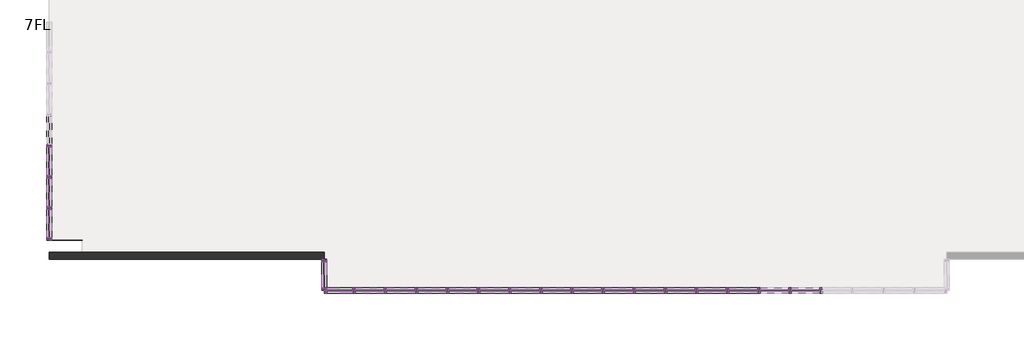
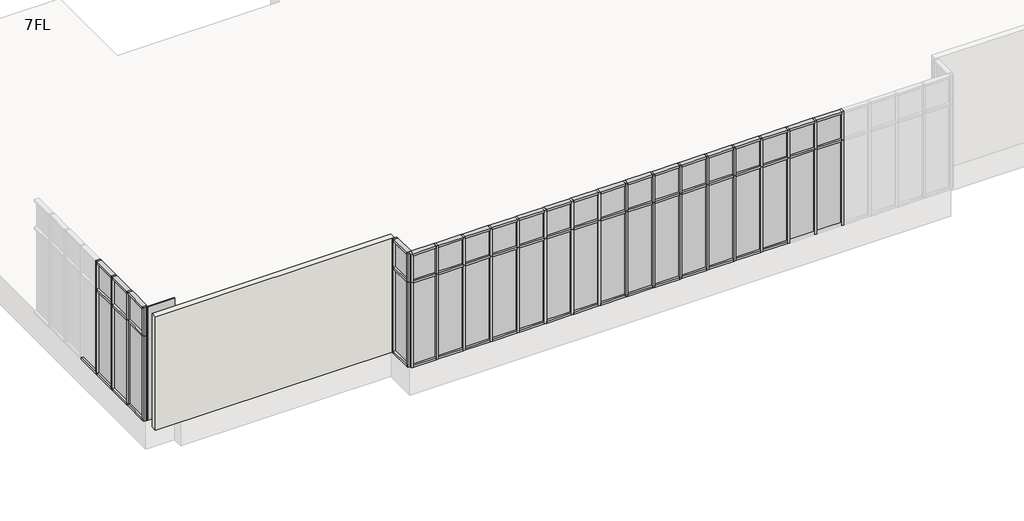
# One storey, part 1 of 4: 105 members, 42 plates, 1 wall.
"""IFC4 building model written with IfcOpenShell, lengths in millimetres."""

from ifc_helpers import new_model, si_unit, origin, place, context, project, spatial, faceted_brep, transform, mapped, element, save
from components import member_70x150_cdd4dcf9, member_70x150_9a135ce4, member_70x150_66cf63de, member_70x150_26475b18, member_70x150_ad4265bc, member_70x150_e0eddb57, member_70x150_1b280ac3, member_70x150_76429c73, plate_d1366ea1, plate_ab860a3c, plate_28587fd3, plate_4b01b467, plate_396bcf3c, plate_83f08a3e

model = new_model("IFC4")

# Units and contexts
model_context = context("Model", 3, world=origin())
ifc_project = project(units=[si_unit("LENGTHUNIT", "METRE", prefix="MILLI")], contexts=[model_context])

# Site, building, storey
site = spatial("IfcSite", under=ifc_project)
building = spatial("IfcBuilding", under=site)
storey = spatial("IfcBuildingStorey", under=building, Name="7FL", Elevation=24600.0)

# Members
placement = place(None, origin())
member_70x150_shape = member_70x150_cdd4dcf9(model_context)
element("IfcMember", 1, ObjectType="長方形のマリオン : 70x150", at=placement, inside=storey, context=model_context, shape_type="MappedRepresentation", body=[
    mapped(member_70x150_shape, transform((-19630.9784025, -4550.3131013, 24600.0), x_axis=(-1.0, 0.0, 0.0), y_axis=(0.0, 1.0, 0.0), z_axis=(0.0, 0.0, -1.0))),
])
element("IfcMember", 2, ObjectType="長方形のマリオン : 70x150", at=placement, inside=storey, context=model_context, shape_type="MappedRepresentation", body=[
    mapped(member_70x150_shape, transform((-16030.9784025, -4550.3131013, 24600.0), x_axis=(-1.0, 0.0, 0.0), y_axis=(0.0, 1.0, 0.0), z_axis=(0.0, 0.0, -1.0))),
])
element("IfcMember", 3, ObjectType="長方形のマリオン : 70x150", at=placement, inside=storey, context=model_context, shape_type="MappedRepresentation", body=[
    mapped(member_70x150_shape, transform((-20530.9784025, -4550.3131013, 24600.0), x_axis=(-1.0, 0.0, 0.0), y_axis=(0.0, 1.0, 0.0), z_axis=(0.0, 0.0, -1.0))),
])
element("IfcMember", 4, ObjectType="長方形のマリオン : 70x150", at=placement, inside=storey, context=model_context, shape_type="MappedRepresentation", body=[
    mapped(member_70x150_shape, transform((-17830.9784025, -4550.3131013, 24600.0), x_axis=(-1.0, 0.0, 0.0), y_axis=(0.0, 1.0, 0.0), z_axis=(0.0, 0.0, -1.0))),
])
element("IfcMember", 5, ObjectType="長方形のマリオン : 70x150", at=placement, inside=storey, context=model_context, shape_type="MappedRepresentation", body=[
    mapped(member_70x150_shape, transform((-14230.9784025, -4550.3131013, 24600.0), x_axis=(-1.0, 0.0, 0.0), y_axis=(0.0, 1.0, 0.0), z_axis=(0.0, 0.0, -1.0))),
])
element("IfcMember", 6, ObjectType="長方形のマリオン : 70x150", at=placement, inside=storey, context=model_context, shape_type="MappedRepresentation", body=[
    mapped(member_70x150_shape, transform((-18730.9784025, -4550.3131013, 24600.0), x_axis=(-1.0, 0.0, 0.0), y_axis=(0.0, 1.0, 0.0), z_axis=(0.0, 0.0, -1.0))),
])
element("IfcMember", 7, ObjectType="長方形のマリオン : 70x150", at=placement, inside=storey, context=model_context, shape_type="MappedRepresentation", body=[
    mapped(member_70x150_shape, transform((-15130.9784025, -4550.3131013, 24600.0), x_axis=(-1.0, 0.0, 0.0), y_axis=(0.0, 1.0, 0.0), z_axis=(0.0, 0.0, -1.0))),
])
element("IfcMember", 8, ObjectType="長方形のマリオン : 70x150", at=placement, inside=storey, context=model_context, shape_type="MappedRepresentation", body=[
    mapped(member_70x150_shape, transform((-13330.9784025, -4550.3131013, 24600.0), x_axis=(-1.0, 0.0, 0.0), y_axis=(0.0, 1.0, 0.0), z_axis=(0.0, 0.0, -1.0))),
])
element("IfcMember", 9, ObjectType="長方形のマリオン : 70x150", at=placement, inside=storey, context=model_context, shape_type="MappedRepresentation", body=[
    mapped(member_70x150_shape, transform((-16930.9784025, -4550.3131013, 24600.0), x_axis=(-1.0, 0.0, 0.0), y_axis=(0.0, 1.0, 0.0), z_axis=(0.0, 0.0, -1.0))),
])
element("IfcMember", 10, ObjectType="長方形のマリオン : 70x150", at=placement, inside=storey, context=model_context, shape_type="MappedRepresentation", body=[
    mapped(member_70x150_shape, transform((-12430.9784025, -4550.3131013, 24600.0), x_axis=(-1.0, 0.0, 0.0), y_axis=(0.0, 1.0, 0.0), z_axis=(0.0, 0.0, -1.0))),
])
element("IfcMember", 11, ObjectType="長方形のマリオン : 70x150", at=placement, inside=storey, context=model_context, shape_type="MappedRepresentation", body=[
    mapped(member_70x150_shape, transform((-10630.9784025, -4550.3131013, 24600.0), x_axis=(-1.0, 0.0, 0.0), y_axis=(0.0, 1.0, 0.0), z_axis=(0.0, 0.0, -1.0))),
])
element("IfcMember", 12, ObjectType="長方形のマリオン : 70x150", at=placement, inside=storey, context=model_context, shape_type="MappedRepresentation", body=[
    mapped(member_70x150_shape, transform((-7930.9784025, -4550.3131013, 24600.0), x_axis=(-1.0, 0.0, 0.0), y_axis=(0.0, 1.0, 0.0), z_axis=(0.0, 0.0, -1.0))),
])
element("IfcMember", 13, ObjectType="長方形のマリオン : 70x150", at=placement, inside=storey, context=model_context, shape_type="MappedRepresentation", body=[
    mapped(member_70x150_shape, transform((-9730.9784025, -4550.3131013, 24600.0), x_axis=(-1.0, 0.0, 0.0), y_axis=(0.0, 1.0, 0.0), z_axis=(0.0, 0.0, -1.0))),
])
element("IfcMember", 14, ObjectType="長方形のマリオン : 70x150", at=placement, inside=storey, context=model_context, shape_type="MappedRepresentation", body=[
    mapped(member_70x150_shape, transform((-11530.9784025, -4550.3131013, 24600.0), x_axis=(-1.0, 0.0, 0.0), y_axis=(0.0, 1.0, 0.0), z_axis=(0.0, 0.0, -1.0))),
])
element("IfcMember", 15, ObjectType="長方形のマリオン : 70x150", at=placement, inside=storey, context=model_context, shape_type="MappedRepresentation", body=[
    mapped(member_70x150_shape, transform((-8830.9784025, -4550.3131013, 24600.0), x_axis=(-1.0, 0.0, 0.0), y_axis=(0.0, 1.0, 0.0), z_axis=(0.0, 0.0, -1.0))),
])
element("IfcMember", 16, ObjectType="長方形のマリオン : 70x150", at=placement, inside=storey, context=model_context, shape_type="MappedRepresentation", body=[
    mapped(member_70x150_shape, transform((-7030.9784025, -4550.3131013, 24600.0), x_axis=(-1.0, 0.0, 0.0), y_axis=(0.0, 1.0, 0.0), z_axis=(0.0, 0.0, -1.0))),
])
element("IfcMember", 17, ObjectType="長方形のマリオン : 70x150", at=placement, inside=storey, context=model_context, shape_type="MappedRepresentation", body=[
    mapped(member_70x150_shape, transform((-29345.9784025, -365.3131013, 24600.0), x_axis=(0.0, 1.0, 0.0), y_axis=(1.0, 0.0, 0.0), z_axis=(0.0, 0.0, -1.0))),
])
element("IfcMember", 18, ObjectType="長方形のマリオン : 70x150", at=placement, inside=storey, context=model_context, shape_type="MappedRepresentation", body=[
    mapped(member_70x150_shape, transform((-29345.9784025, -2165.3131013, 24600.0), x_axis=(0.0, 1.0, 0.0), y_axis=(1.0, 0.0, 0.0), z_axis=(0.0, 0.0, -1.0))),
])
element("IfcMember", 19, ObjectType="長方形のマリオン : 70x150", at=placement, inside=storey, context=model_context, shape_type="MappedRepresentation", body=[
    mapped(member_70x150_shape, transform((-29345.9784025, -1265.3131013, 24600.0), x_axis=(0.0, 1.0, 0.0), y_axis=(1.0, 0.0, 0.0), z_axis=(0.0, 0.0, -1.0))),
])
member_70x150_2_shape = member_70x150_9a135ce4(model_context)
element("IfcMember", 20, ObjectType="長方形のマリオン : 70x150", at=placement, inside=storey, context=model_context, shape_type="MappedRepresentation", body=[
    mapped(member_70x150_2_shape, transform((-21325.9784025, -4550.3131013, 28600.0), x_axis=(0.0, 0.0, 1.0), y_axis=(0.0, 1.0, 0.0), z_axis=(-1.0, 0.0, 0.0))),
])
element("IfcMember", 21, ObjectType="長方形のマリオン : 70x150", at=placement, inside=storey, context=model_context, shape_type="MappedRepresentation", body=[
    mapped(member_70x150_2_shape, transform((-21395.9784025, -3720.3131013, 28600.0), x_axis=(0.0, 0.0, 1.0), y_axis=(1.0, 0.0, 0.0), z_axis=(0.0, 1.0, 0.0))),
])
member_70x150_3_shape = member_70x150_66cf63de(model_context)
element("IfcMember", 22, ObjectType="長方形のマリオン : 70x150", at=placement, inside=storey, context=model_context, shape_type="MappedRepresentation", body=[
    mapped(member_70x150_3_shape, transform((-19665.9784025, -4550.3131013, 24600.0), x_axis=(0.0, 0.0, -1.0), y_axis=(0.0, 1.0, 0.0), z_axis=(1.0, 0.0, 0.0))),
])
element("IfcMember", 23, ObjectType="長方形のマリオン : 70x150", at=placement, inside=storey, context=model_context, shape_type="MappedRepresentation", body=[
    mapped(member_70x150_3_shape, transform((-18765.9784025, -4550.3131013, 24600.0), x_axis=(0.0, 0.0, -1.0), y_axis=(0.0, 1.0, 0.0), z_axis=(1.0, 0.0, 0.0))),
])
element("IfcMember", 24, ObjectType="長方形のマリオン : 70x150", at=placement, inside=storey, context=model_context, shape_type="MappedRepresentation", body=[
    mapped(member_70x150_3_shape, transform((-17865.9784025, -4550.3131013, 24600.0), x_axis=(0.0, 0.0, -1.0), y_axis=(0.0, 1.0, 0.0), z_axis=(1.0, 0.0, 0.0))),
])
element("IfcMember", 25, ObjectType="長方形のマリオン : 70x150", at=placement, inside=storey, context=model_context, shape_type="MappedRepresentation", body=[
    mapped(member_70x150_3_shape, transform((-16965.9784025, -4550.3131013, 24600.0), x_axis=(0.0, 0.0, -1.0), y_axis=(0.0, 1.0, 0.0), z_axis=(1.0, 0.0, 0.0))),
])
element("IfcMember", 26, ObjectType="長方形のマリオン : 70x150", at=placement, inside=storey, context=model_context, shape_type="MappedRepresentation", body=[
    mapped(member_70x150_3_shape, transform((-16065.9784025, -4550.3131013, 24600.0), x_axis=(0.0, 0.0, -1.0), y_axis=(0.0, 1.0, 0.0), z_axis=(1.0, 0.0, 0.0))),
])
element("IfcMember", 27, ObjectType="長方形のマリオン : 70x150", at=placement, inside=storey, context=model_context, shape_type="MappedRepresentation", body=[
    mapped(member_70x150_3_shape, transform((-11565.9784025, -4550.3131013, 24600.0), x_axis=(0.0, 0.0, -1.0), y_axis=(0.0, 1.0, 0.0), z_axis=(1.0, 0.0, 0.0))),
])
element("IfcMember", 28, ObjectType="長方形のマリオン : 70x150", at=placement, inside=storey, context=model_context, shape_type="MappedRepresentation", body=[
    mapped(member_70x150_3_shape, transform((-9765.9784025, -4550.3131013, 24600.0), x_axis=(0.0, 0.0, -1.0), y_axis=(0.0, 1.0, 0.0), z_axis=(1.0, 0.0, 0.0))),
])
element("IfcMember", 29, ObjectType="長方形のマリオン : 70x150", at=placement, inside=storey, context=model_context, shape_type="MappedRepresentation", body=[
    mapped(member_70x150_3_shape, transform((-13365.9784025, -4550.3131013, 24600.0), x_axis=(0.0, 0.0, -1.0), y_axis=(0.0, 1.0, 0.0), z_axis=(1.0, 0.0, 0.0))),
])
element("IfcMember", 30, ObjectType="長方形のマリオン : 70x150", at=placement, inside=storey, context=model_context, shape_type="MappedRepresentation", body=[
    mapped(member_70x150_3_shape, transform((-12465.9784025, -4550.3131013, 24600.0), x_axis=(0.0, 0.0, -1.0), y_axis=(0.0, 1.0, 0.0), z_axis=(1.0, 0.0, 0.0))),
])
element("IfcMember", 31, ObjectType="長方形のマリオン : 70x150", at=placement, inside=storey, context=model_context, shape_type="MappedRepresentation", body=[
    mapped(member_70x150_3_shape, transform((-14265.9784025, -4550.3131013, 24600.0), x_axis=(0.0, 0.0, -1.0), y_axis=(0.0, 1.0, 0.0), z_axis=(1.0, 0.0, 0.0))),
])
element("IfcMember", 32, ObjectType="長方形のマリオン : 70x150", at=placement, inside=storey, context=model_context, shape_type="MappedRepresentation", body=[
    mapped(member_70x150_3_shape, transform((-10665.9784025, -4550.3131013, 24600.0), x_axis=(0.0, 0.0, -1.0), y_axis=(0.0, 1.0, 0.0), z_axis=(1.0, 0.0, 0.0))),
])
element("IfcMember", 33, ObjectType="長方形のマリオン : 70x150", at=placement, inside=storey, context=model_context, shape_type="MappedRepresentation", body=[
    mapped(member_70x150_3_shape, transform((-15165.9784025, -4550.3131013, 24600.0), x_axis=(0.0, 0.0, -1.0), y_axis=(0.0, 1.0, 0.0), z_axis=(1.0, 0.0, 0.0))),
])
element("IfcMember", 34, ObjectType="長方形のマリオン : 70x150", at=placement, inside=storey, context=model_context, shape_type="MappedRepresentation", body=[
    mapped(member_70x150_3_shape, transform((-8865.9784025, -4550.3131013, 24600.0), x_axis=(0.0, 0.0, -1.0), y_axis=(0.0, 1.0, 0.0), z_axis=(1.0, 0.0, 0.0))),
])
element("IfcMember", 35, ObjectType="長方形のマリオン : 70x150", at=placement, inside=storey, context=model_context, shape_type="MappedRepresentation", body=[
    mapped(member_70x150_3_shape, transform((-29345.9784025, -330.3131013, 24600.0), x_axis=(0.0, 0.0, -1.0), y_axis=(1.0, 0.0, 0.0), z_axis=(0.0, -1.0, 0.0))),
])
element("IfcMember", 36, ObjectType="長方形のマリオン : 70x150", at=placement, inside=storey, context=model_context, shape_type="MappedRepresentation", body=[
    mapped(member_70x150_3_shape, transform((-29345.9784025, -1230.3131013, 24600.0), x_axis=(0.0, 0.0, -1.0), y_axis=(1.0, 0.0, 0.0), z_axis=(0.0, -1.0, 0.0))),
])
element("IfcMember", 37, ObjectType="長方形のマリオン : 70x150", at=placement, inside=storey, context=model_context, shape_type="MappedRepresentation", body=[
    mapped(member_70x150_3_shape, transform((-29345.9784025, -2130.3131013, 24600.0), x_axis=(0.0, 0.0, -1.0), y_axis=(1.0, 0.0, 0.0), z_axis=(0.0, -1.0, 0.0))),
])
element("IfcMember", 38, ObjectType="長方形のマリオン : 70x150", at=placement, inside=storey, context=model_context, shape_type="MappedRepresentation", body=[
    mapped(member_70x150_3_shape, transform((-29345.9784025, -3030.3131013, 24600.0), x_axis=(0.0, 0.0, -1.0), y_axis=(1.0, 0.0, 0.0), z_axis=(0.0, -1.0, 0.0))),
])
element("IfcMember", 39, ObjectType="長方形のマリオン : 70x150", at=placement, inside=storey, context=model_context, shape_type="MappedRepresentation", body=[
    mapped(member_70x150_3_shape, transform((-19595.9784025, -4550.3131013, 28600.0), x_axis=(0.0, 0.0, 1.0), y_axis=(0.0, 1.0, 0.0), z_axis=(-1.0, 0.0, 0.0))),
])
element("IfcMember", 40, ObjectType="長方形のマリオン : 70x150", at=placement, inside=storey, context=model_context, shape_type="MappedRepresentation", body=[
    mapped(member_70x150_3_shape, transform((-18695.9784025, -4550.3131013, 28600.0), x_axis=(0.0, 0.0, 1.0), y_axis=(0.0, 1.0, 0.0), z_axis=(-1.0, 0.0, 0.0))),
])
element("IfcMember", 41, ObjectType="長方形のマリオン : 70x150", at=placement, inside=storey, context=model_context, shape_type="MappedRepresentation", body=[
    mapped(member_70x150_3_shape, transform((-17795.9784025, -4550.3131013, 28600.0), x_axis=(0.0, 0.0, 1.0), y_axis=(0.0, 1.0, 0.0), z_axis=(-1.0, 0.0, 0.0))),
])
element("IfcMember", 42, ObjectType="長方形のマリオン : 70x150", at=placement, inside=storey, context=model_context, shape_type="MappedRepresentation", body=[
    mapped(member_70x150_3_shape, transform((-16895.9784025, -4550.3131013, 28600.0), x_axis=(0.0, 0.0, 1.0), y_axis=(0.0, 1.0, 0.0), z_axis=(-1.0, 0.0, 0.0))),
])
element("IfcMember", 43, ObjectType="長方形のマリオン : 70x150", at=placement, inside=storey, context=model_context, shape_type="MappedRepresentation", body=[
    mapped(member_70x150_3_shape, transform((-15995.9784025, -4550.3131013, 28600.0), x_axis=(0.0, 0.0, 1.0), y_axis=(0.0, 1.0, 0.0), z_axis=(-1.0, 0.0, 0.0))),
])
element("IfcMember", 44, ObjectType="長方形のマリオン : 70x150", at=placement, inside=storey, context=model_context, shape_type="MappedRepresentation", body=[
    mapped(member_70x150_3_shape, transform((-15095.9784025, -4550.3131013, 28600.0), x_axis=(0.0, 0.0, 1.0), y_axis=(0.0, 1.0, 0.0), z_axis=(-1.0, 0.0, 0.0))),
])
element("IfcMember", 45, ObjectType="長方形のマリオン : 70x150", at=placement, inside=storey, context=model_context, shape_type="MappedRepresentation", body=[
    mapped(member_70x150_3_shape, transform((-14195.9784025, -4550.3131013, 28600.0), x_axis=(0.0, 0.0, 1.0), y_axis=(0.0, 1.0, 0.0), z_axis=(-1.0, 0.0, 0.0))),
])
element("IfcMember", 46, ObjectType="長方形のマリオン : 70x150", at=placement, inside=storey, context=model_context, shape_type="MappedRepresentation", body=[
    mapped(member_70x150_3_shape, transform((-13295.9784025, -4550.3131013, 28600.0), x_axis=(0.0, 0.0, 1.0), y_axis=(0.0, 1.0, 0.0), z_axis=(-1.0, 0.0, 0.0))),
])
element("IfcMember", 47, ObjectType="長方形のマリオン : 70x150", at=placement, inside=storey, context=model_context, shape_type="MappedRepresentation", body=[
    mapped(member_70x150_3_shape, transform((-12395.9784025, -4550.3131013, 28600.0), x_axis=(0.0, 0.0, 1.0), y_axis=(0.0, 1.0, 0.0), z_axis=(-1.0, 0.0, 0.0))),
])
element("IfcMember", 48, ObjectType="長方形のマリオン : 70x150", at=placement, inside=storey, context=model_context, shape_type="MappedRepresentation", body=[
    mapped(member_70x150_3_shape, transform((-11495.9784025, -4550.3131013, 28600.0), x_axis=(0.0, 0.0, 1.0), y_axis=(0.0, 1.0, 0.0), z_axis=(-1.0, 0.0, 0.0))),
])
element("IfcMember", 49, ObjectType="長方形のマリオン : 70x150", at=placement, inside=storey, context=model_context, shape_type="MappedRepresentation", body=[
    mapped(member_70x150_3_shape, transform((-10595.9784025, -4550.3131013, 28600.0), x_axis=(0.0, 0.0, 1.0), y_axis=(0.0, 1.0, 0.0), z_axis=(-1.0, 0.0, 0.0))),
])
element("IfcMember", 50, ObjectType="長方形のマリオン : 70x150", at=placement, inside=storey, context=model_context, shape_type="MappedRepresentation", body=[
    mapped(member_70x150_3_shape, transform((-9695.9784025, -4550.3131013, 28600.0), x_axis=(0.0, 0.0, 1.0), y_axis=(0.0, 1.0, 0.0), z_axis=(-1.0, 0.0, 0.0))),
])
element("IfcMember", 51, ObjectType="長方形のマリオン : 70x150", at=placement, inside=storey, context=model_context, shape_type="MappedRepresentation", body=[
    mapped(member_70x150_3_shape, transform((-8795.9784025, -4550.3131013, 28600.0), x_axis=(0.0, 0.0, 1.0), y_axis=(0.0, 1.0, 0.0), z_axis=(-1.0, 0.0, 0.0))),
])
element("IfcMember", 52, ObjectType="長方形のマリオン : 70x150", at=placement, inside=storey, context=model_context, shape_type="MappedRepresentation", body=[
    mapped(member_70x150_3_shape, transform((-7895.9784025, -4550.3131013, 28600.0), x_axis=(0.0, 0.0, 1.0), y_axis=(0.0, 1.0, 0.0), z_axis=(-1.0, 0.0, 0.0))),
])
element("IfcMember", 53, ObjectType="長方形のマリオン : 70x150", at=placement, inside=storey, context=model_context, shape_type="MappedRepresentation", body=[
    mapped(member_70x150_3_shape, transform((-20495.9784025, -4550.3131013, 28600.0), x_axis=(0.0, 0.0, 1.0), y_axis=(0.0, 1.0, 0.0), z_axis=(-1.0, 0.0, 0.0))),
])
element("IfcMember", 54, ObjectType="長方形のマリオン : 70x150", at=placement, inside=storey, context=model_context, shape_type="MappedRepresentation", body=[
    mapped(member_70x150_3_shape, transform((-29345.9784025, -400.3131013, 28600.0), x_axis=(0.0, 0.0, 1.0), y_axis=(1.0, 0.0, 0.0), z_axis=(0.0, 1.0, 0.0))),
])
element("IfcMember", 55, ObjectType="長方形のマリオン : 70x150", at=placement, inside=storey, context=model_context, shape_type="MappedRepresentation", body=[
    mapped(member_70x150_3_shape, transform((-29345.9784025, -1300.3131013, 28600.0), x_axis=(0.0, 0.0, 1.0), y_axis=(1.0, 0.0, 0.0), z_axis=(0.0, 1.0, 0.0))),
])
element("IfcMember", 56, ObjectType="長方形のマリオン : 70x150", at=placement, inside=storey, context=model_context, shape_type="MappedRepresentation", body=[
    mapped(member_70x150_3_shape, transform((-29345.9784025, -2200.3131013, 28600.0), x_axis=(0.0, 0.0, 1.0), y_axis=(1.0, 0.0, 0.0), z_axis=(0.0, 1.0, 0.0))),
])
element("IfcMember", 57, ObjectType="長方形のマリオン : 70x150", at=placement, inside=storey, context=model_context, shape_type="MappedRepresentation", body=[
    mapped(member_70x150_2_shape, transform((-20565.9784025, -4550.3131013, 24600.0), x_axis=(0.0, 0.0, -1.0), y_axis=(0.0, 1.0, 0.0), z_axis=(1.0, 0.0, 0.0))),
])
element("IfcMember", 58, ObjectType="長方形のマリオン : 70x150", at=placement, inside=storey, context=model_context, shape_type="MappedRepresentation", body=[
    mapped(member_70x150_2_shape, transform((-21395.9784025, -4480.3131013, 24600.0), x_axis=(0.0, 0.0, -1.0), y_axis=(1.0, 0.0, 0.0), z_axis=(0.0, -1.0, 0.0))),
])
member_70x150_4_shape = member_70x150_26475b18(model_context)
element("IfcMember", 59, ObjectType="長方形のマリオン : 70x150", at=placement, inside=storey, context=model_context, shape_type="MappedRepresentation", body=[
    mapped(member_70x150_4_shape, transform((-20530.9784025, -4550.3131013, 27600.0), x_axis=(-1.0, 0.0, 0.0), y_axis=(0.0, 1.0, 0.0), z_axis=(0.0, 0.0, -1.0))),
])
element("IfcMember", 60, ObjectType="長方形のマリオン : 70x150", at=placement, inside=storey, context=model_context, shape_type="MappedRepresentation", body=[
    mapped(member_70x150_4_shape, transform((-19630.9784025, -4550.3131013, 27600.0), x_axis=(-1.0, 0.0, 0.0), y_axis=(0.0, 1.0, 0.0), z_axis=(0.0, 0.0, -1.0))),
])
element("IfcMember", 61, ObjectType="長方形のマリオン : 70x150", at=placement, inside=storey, context=model_context, shape_type="MappedRepresentation", body=[
    mapped(member_70x150_4_shape, transform((-18730.9784025, -4550.3131013, 27600.0), x_axis=(-1.0, 0.0, 0.0), y_axis=(0.0, 1.0, 0.0), z_axis=(0.0, 0.0, -1.0))),
])
element("IfcMember", 62, ObjectType="長方形のマリオン : 70x150", at=placement, inside=storey, context=model_context, shape_type="MappedRepresentation", body=[
    mapped(member_70x150_4_shape, transform((-17830.9784025, -4550.3131013, 27600.0), x_axis=(-1.0, 0.0, 0.0), y_axis=(0.0, 1.0, 0.0), z_axis=(0.0, 0.0, -1.0))),
])
element("IfcMember", 63, ObjectType="長方形のマリオン : 70x150", at=placement, inside=storey, context=model_context, shape_type="MappedRepresentation", body=[
    mapped(member_70x150_4_shape, transform((-16930.9784025, -4550.3131013, 27600.0), x_axis=(-1.0, 0.0, 0.0), y_axis=(0.0, 1.0, 0.0), z_axis=(0.0, 0.0, -1.0))),
])
element("IfcMember", 64, ObjectType="長方形のマリオン : 70x150", at=placement, inside=storey, context=model_context, shape_type="MappedRepresentation", body=[
    mapped(member_70x150_4_shape, transform((-16030.9784025, -4550.3131013, 27600.0), x_axis=(-1.0, 0.0, 0.0), y_axis=(0.0, 1.0, 0.0), z_axis=(0.0, 0.0, -1.0))),
])
element("IfcMember", 65, ObjectType="長方形のマリオン : 70x150", at=placement, inside=storey, context=model_context, shape_type="MappedRepresentation", body=[
    mapped(member_70x150_4_shape, transform((-15130.9784025, -4550.3131013, 27600.0), x_axis=(-1.0, 0.0, 0.0), y_axis=(0.0, 1.0, 0.0), z_axis=(0.0, 0.0, -1.0))),
])
element("IfcMember", 66, ObjectType="長方形のマリオン : 70x150", at=placement, inside=storey, context=model_context, shape_type="MappedRepresentation", body=[
    mapped(member_70x150_4_shape, transform((-14230.9784025, -4550.3131013, 27600.0), x_axis=(-1.0, 0.0, 0.0), y_axis=(0.0, 1.0, 0.0), z_axis=(0.0, 0.0, -1.0))),
])
element("IfcMember", 67, ObjectType="長方形のマリオン : 70x150", at=placement, inside=storey, context=model_context, shape_type="MappedRepresentation", body=[
    mapped(member_70x150_4_shape, transform((-13330.9784025, -4550.3131013, 27600.0), x_axis=(-1.0, 0.0, 0.0), y_axis=(0.0, 1.0, 0.0), z_axis=(0.0, 0.0, -1.0))),
])
element("IfcMember", 68, ObjectType="長方形のマリオン : 70x150", at=placement, inside=storey, context=model_context, shape_type="MappedRepresentation", body=[
    mapped(member_70x150_4_shape, transform((-12430.9784025, -4550.3131013, 27600.0), x_axis=(-1.0, 0.0, 0.0), y_axis=(0.0, 1.0, 0.0), z_axis=(0.0, 0.0, -1.0))),
])
element("IfcMember", 69, ObjectType="長方形のマリオン : 70x150", at=placement, inside=storey, context=model_context, shape_type="MappedRepresentation", body=[
    mapped(member_70x150_4_shape, transform((-11530.9784025, -4550.3131013, 27600.0), x_axis=(-1.0, 0.0, 0.0), y_axis=(0.0, 1.0, 0.0), z_axis=(0.0, 0.0, -1.0))),
])
element("IfcMember", 70, ObjectType="長方形のマリオン : 70x150", at=placement, inside=storey, context=model_context, shape_type="MappedRepresentation", body=[
    mapped(member_70x150_4_shape, transform((-10630.9784025, -4550.3131013, 27600.0), x_axis=(-1.0, 0.0, 0.0), y_axis=(0.0, 1.0, 0.0), z_axis=(0.0, 0.0, -1.0))),
])
element("IfcMember", 71, ObjectType="長方形のマリオン : 70x150", at=placement, inside=storey, context=model_context, shape_type="MappedRepresentation", body=[
    mapped(member_70x150_4_shape, transform((-9730.9784025, -4550.3131013, 27600.0), x_axis=(-1.0, 0.0, 0.0), y_axis=(0.0, 1.0, 0.0), z_axis=(0.0, 0.0, -1.0))),
])
element("IfcMember", 72, ObjectType="長方形のマリオン : 70x150", at=placement, inside=storey, context=model_context, shape_type="MappedRepresentation", body=[
    mapped(member_70x150_4_shape, transform((-8830.9784025, -4550.3131013, 27600.0), x_axis=(-1.0, 0.0, 0.0), y_axis=(0.0, 1.0, 0.0), z_axis=(0.0, 0.0, -1.0))),
])
element("IfcMember", 73, ObjectType="長方形のマリオン : 70x150", at=placement, inside=storey, context=model_context, shape_type="MappedRepresentation", body=[
    mapped(member_70x150_4_shape, transform((-7930.9784025, -4550.3131013, 27600.0), x_axis=(-1.0, 0.0, 0.0), y_axis=(0.0, 1.0, 0.0), z_axis=(0.0, 0.0, -1.0))),
])
element("IfcMember", 74, ObjectType="長方形のマリオン : 70x150", at=placement, inside=storey, context=model_context, shape_type="MappedRepresentation", body=[
    mapped(member_70x150_4_shape, transform((-7030.9784025, -4550.3131013, 27600.0), x_axis=(-1.0, 0.0, 0.0), y_axis=(0.0, 1.0, 0.0), z_axis=(0.0, 0.0, -1.0))),
])
element("IfcMember", 75, ObjectType="長方形のマリオン : 70x150", at=placement, inside=storey, context=model_context, shape_type="MappedRepresentation", body=[
    mapped(member_70x150_4_shape, transform((-29345.9784025, -365.3131013, 27600.0), x_axis=(0.0, 1.0, 0.0), y_axis=(1.0, 0.0, 0.0), z_axis=(0.0, 0.0, -1.0))),
])
element("IfcMember", 76, ObjectType="長方形のマリオン : 70x150", at=placement, inside=storey, context=model_context, shape_type="MappedRepresentation", body=[
    mapped(member_70x150_4_shape, transform((-29345.9784025, -2165.3131013, 27600.0), x_axis=(0.0, 1.0, 0.0), y_axis=(1.0, 0.0, 0.0), z_axis=(0.0, 0.0, -1.0))),
])
element("IfcMember", 77, ObjectType="長方形のマリオン : 70x150", at=placement, inside=storey, context=model_context, shape_type="MappedRepresentation", body=[
    mapped(member_70x150_4_shape, transform((-29345.9784025, -1265.3131013, 27600.0), x_axis=(0.0, 1.0, 0.0), y_axis=(1.0, 0.0, 0.0), z_axis=(0.0, 0.0, -1.0))),
])
member_70x150_5_shape = member_70x150_ad4265bc(model_context)
element("IfcMember", 78, ObjectType="長方形のマリオン : 70x150", at=placement, inside=storey, context=model_context, shape_type="MappedRepresentation", body=[
    mapped(member_70x150_5_shape, transform((-17795.9784025, -4550.3131013, 27600.0), x_axis=(0.0, 0.0, 1.0), y_axis=(0.0, 1.0, 0.0), z_axis=(-1.0, 0.0, 0.0))),
])
element("IfcMember", 79, ObjectType="長方形のマリオン : 70x150", at=placement, inside=storey, context=model_context, shape_type="MappedRepresentation", body=[
    mapped(member_70x150_5_shape, transform((-13295.9784025, -4550.3131013, 27600.0), x_axis=(0.0, 0.0, 1.0), y_axis=(0.0, 1.0, 0.0), z_axis=(-1.0, 0.0, 0.0))),
])
element("IfcMember", 80, ObjectType="長方形のマリオン : 70x150", at=placement, inside=storey, context=model_context, shape_type="MappedRepresentation", body=[
    mapped(member_70x150_5_shape, transform((-12395.9784025, -4550.3131013, 27600.0), x_axis=(0.0, 0.0, 1.0), y_axis=(0.0, 1.0, 0.0), z_axis=(-1.0, 0.0, 0.0))),
])
element("IfcMember", 81, ObjectType="長方形のマリオン : 70x150", at=placement, inside=storey, context=model_context, shape_type="MappedRepresentation", body=[
    mapped(member_70x150_5_shape, transform((-9695.9784025, -4550.3131013, 27600.0), x_axis=(0.0, 0.0, 1.0), y_axis=(0.0, 1.0, 0.0), z_axis=(-1.0, 0.0, 0.0))),
])
element("IfcMember", 82, ObjectType="長方形のマリオン : 70x150", at=placement, inside=storey, context=model_context, shape_type="MappedRepresentation", body=[
    mapped(member_70x150_5_shape, transform((-15995.9784025, -4550.3131013, 27600.0), x_axis=(0.0, 0.0, 1.0), y_axis=(0.0, 1.0, 0.0), z_axis=(-1.0, 0.0, 0.0))),
])
element("IfcMember", 83, ObjectType="長方形のマリオン : 70x150", at=placement, inside=storey, context=model_context, shape_type="MappedRepresentation", body=[
    mapped(member_70x150_5_shape, transform((-15095.9784025, -4550.3131013, 27600.0), x_axis=(0.0, 0.0, 1.0), y_axis=(0.0, 1.0, 0.0), z_axis=(-1.0, 0.0, 0.0))),
])
element("IfcMember", 84, ObjectType="長方形のマリオン : 70x150", at=placement, inside=storey, context=model_context, shape_type="MappedRepresentation", body=[
    mapped(member_70x150_5_shape, transform((-16895.9784025, -4550.3131013, 27600.0), x_axis=(0.0, 0.0, 1.0), y_axis=(0.0, 1.0, 0.0), z_axis=(-1.0, 0.0, 0.0))),
])
element("IfcMember", 85, ObjectType="長方形のマリオン : 70x150", at=placement, inside=storey, context=model_context, shape_type="MappedRepresentation", body=[
    mapped(member_70x150_5_shape, transform((-8795.9784025, -4550.3131013, 27600.0), x_axis=(0.0, 0.0, 1.0), y_axis=(0.0, 1.0, 0.0), z_axis=(-1.0, 0.0, 0.0))),
])
element("IfcMember", 86, ObjectType="長方形のマリオン : 70x150", at=placement, inside=storey, context=model_context, shape_type="MappedRepresentation", body=[
    mapped(member_70x150_5_shape, transform((-11495.9784025, -4550.3131013, 27600.0), x_axis=(0.0, 0.0, 1.0), y_axis=(0.0, 1.0, 0.0), z_axis=(-1.0, 0.0, 0.0))),
])
element("IfcMember", 87, ObjectType="長方形のマリオン : 70x150", at=placement, inside=storey, context=model_context, shape_type="MappedRepresentation", body=[
    mapped(member_70x150_5_shape, transform((-14195.9784025, -4550.3131013, 27600.0), x_axis=(0.0, 0.0, 1.0), y_axis=(0.0, 1.0, 0.0), z_axis=(-1.0, 0.0, 0.0))),
])
element("IfcMember", 88, ObjectType="長方形のマリオン : 70x150", at=placement, inside=storey, context=model_context, shape_type="MappedRepresentation", body=[
    mapped(member_70x150_5_shape, transform((-7895.9784025, -4550.3131013, 27600.0), x_axis=(0.0, 0.0, 1.0), y_axis=(0.0, 1.0, 0.0), z_axis=(-1.0, 0.0, 0.0))),
])
element("IfcMember", 89, ObjectType="長方形のマリオン : 70x150", at=placement, inside=storey, context=model_context, shape_type="MappedRepresentation", body=[
    mapped(member_70x150_5_shape, transform((-19595.9784025, -4550.3131013, 27600.0), x_axis=(0.0, 0.0, 1.0), y_axis=(0.0, 1.0, 0.0), z_axis=(-1.0, 0.0, 0.0))),
])
element("IfcMember", 90, ObjectType="長方形のマリオン : 70x150", at=placement, inside=storey, context=model_context, shape_type="MappedRepresentation", body=[
    mapped(member_70x150_5_shape, transform((-18695.9784025, -4550.3131013, 27600.0), x_axis=(0.0, 0.0, 1.0), y_axis=(0.0, 1.0, 0.0), z_axis=(-1.0, 0.0, 0.0))),
])
element("IfcMember", 91, ObjectType="長方形のマリオン : 70x150", at=placement, inside=storey, context=model_context, shape_type="MappedRepresentation", body=[
    mapped(member_70x150_5_shape, transform((-10595.9784025, -4550.3131013, 27600.0), x_axis=(0.0, 0.0, 1.0), y_axis=(0.0, 1.0, 0.0), z_axis=(-1.0, 0.0, 0.0))),
])
element("IfcMember", 92, ObjectType="長方形のマリオン : 70x150", at=placement, inside=storey, context=model_context, shape_type="MappedRepresentation", body=[
    mapped(member_70x150_5_shape, transform((-20495.9784025, -4550.3131013, 27600.0), x_axis=(0.0, 0.0, 1.0), y_axis=(0.0, 1.0, 0.0), z_axis=(-1.0, 0.0, 0.0))),
])
element("IfcMember", 93, ObjectType="長方形のマリオン : 70x150", at=placement, inside=storey, context=model_context, shape_type="MappedRepresentation", body=[
    mapped(member_70x150_5_shape, transform((-29345.9784025, -2200.3131013, 27600.0), x_axis=(0.0, 0.0, 1.0), y_axis=(1.0, 0.0, 0.0), z_axis=(0.0, 1.0, 0.0))),
])
element("IfcMember", 94, ObjectType="長方形のマリオン : 70x150", at=placement, inside=storey, context=model_context, shape_type="MappedRepresentation", body=[
    mapped(member_70x150_5_shape, transform((-29345.9784025, -400.3131013, 27600.0), x_axis=(0.0, 0.0, 1.0), y_axis=(1.0, 0.0, 0.0), z_axis=(0.0, 1.0, 0.0))),
])
element("IfcMember", 95, ObjectType="長方形のマリオン : 70x150", at=placement, inside=storey, context=model_context, shape_type="MappedRepresentation", body=[
    mapped(member_70x150_5_shape, transform((-29345.9784025, -1300.3131013, 27600.0), x_axis=(0.0, 0.0, 1.0), y_axis=(1.0, 0.0, 0.0), z_axis=(0.0, 1.0, 0.0))),
])
member_70x150_6_shape = member_70x150_e0eddb57(model_context)
element("IfcMember", 96, ObjectType="長方形のマリオン : 70x150", at=placement, inside=storey, context=model_context, shape_type="MappedRepresentation", body=[
    mapped(member_70x150_6_shape, transform((-21325.9784025, -4550.3131013, 27600.0), x_axis=(0.0, 0.0, 1.0), y_axis=(0.0, 1.0, 0.0), z_axis=(-1.0, 0.0, 0.0))),
])
element("IfcMember", 97, ObjectType="長方形のマリオン : 70x150", at=placement, inside=storey, context=model_context, shape_type="MappedRepresentation", body=[
    mapped(member_70x150_6_shape, transform((-21395.9784025, -3720.3131013, 27600.0), x_axis=(0.0, 0.0, 1.0), y_axis=(1.0, 0.0, 0.0), z_axis=(0.0, 1.0, 0.0))),
])
member_70x150_7_shape = member_70x150_1b280ac3(model_context)
element("IfcMember", 98, ObjectType="長方形のマリオン : 70x150", at=placement, inside=storey, context=model_context, shape_type="MappedRepresentation", body=[
    mapped(member_70x150_7_shape, transform((-21395.9784025, -4550.3131013, 24600.0), x_axis=(-1.0, 0.0, 0.0), y_axis=(0.0, 1.0, 0.0), z_axis=(0.0, 0.0, -1.0))),
])
element("IfcMember", 99, ObjectType="長方形のマリオン : 70x150", at=placement, inside=storey, context=model_context, shape_type="MappedRepresentation", body=[
    mapped(member_70x150_7_shape, transform((-21395.9784025, -3650.3131013, 24600.0), x_axis=(0.0, 1.0, 0.0), y_axis=(1.0, 0.0, 0.0), z_axis=(0.0, 0.0, -1.0))),
])
member_70x150_8_shape = member_70x150_76429c73(model_context)
element("IfcMember", 100, ObjectType="長方形のマリオン : 70x150", at=placement, inside=storey, context=model_context, shape_type="MappedRepresentation", body=[
    mapped(member_70x150_8_shape, transform((-29345.9784025, -3100.3131013, 28600.0), x_axis=(0.0, -1.0, 0.0), y_axis=(1.0, 0.0, 0.0), z_axis=(0.0, 0.0, 1.0))),
])
element("IfcMember", 101, ObjectType="長方形のマリオン : 70x150", at=placement, inside=storey, context=model_context, shape_type="MappedRepresentation", body=[
    mapped(member_70x150_8_shape, transform((-21395.9784025, -4550.3131013, 28600.0), x_axis=(0.0, -1.0, 0.0), y_axis=(1.0, 0.0, 0.0), z_axis=(0.0, 0.0, 1.0))),
])
element("IfcMember", 102, ObjectType="長方形のマリオン : 70x150", at=placement, inside=storey, context=model_context, shape_type="MappedRepresentation", body=[
    mapped(member_70x150_8_shape, transform((-21395.9784025, -4550.3131013, 27600.0), x_axis=(-1.0, 0.0, 0.0), y_axis=(0.0, 1.0, 0.0), z_axis=(0.0, 0.0, -1.0))),
])
element("IfcMember", 103, ObjectType="長方形のマリオン : 70x150", at=placement, inside=storey, context=model_context, shape_type="MappedRepresentation", body=[
    mapped(member_70x150_8_shape, transform((-21395.9784025, -3650.3131013, 27600.0), x_axis=(0.0, 1.0, 0.0), y_axis=(1.0, 0.0, 0.0), z_axis=(0.0, 0.0, -1.0))),
])
element("IfcMember", 104, ObjectType="長方形のマリオン : 70x150", at=placement, inside=storey, context=model_context, shape_type="MappedRepresentation", body=[
    mapped(member_70x150_7_shape, transform((-29345.9784025, -3100.3131013, 27600.0), x_axis=(0.0, -1.0, 0.0), y_axis=(1.0, 0.0, 0.0), z_axis=(0.0, 0.0, 1.0))),
])
element("IfcMember", 105, ObjectType="長方形のマリオン : 70x150", at=placement, inside=storey, context=model_context, shape_type="MappedRepresentation", body=[
    mapped(member_70x150_7_shape, transform((-21395.9784025, -4550.3131013, 27600.0), x_axis=(0.0, -1.0, 0.0), y_axis=(1.0, 0.0, 0.0), z_axis=(0.0, 0.0, 1.0))),
])

# Plates
plate_shape = plate_d1366ea1(model_context)
element("IfcPlate", 106, ObjectType="システム パネル : 標準", at=placement, inside=storey, context=model_context, shape_type="MappedRepresentation", body=[
    mapped(plate_shape, transform((-28845.9784025, -3100.3131013, 24600.0), x_axis=(-1.0, 0.0, 0.0), y_axis=(0.0, -1.0, 0.0), z_axis=(0.0, 0.0, 1.0))),
])
plate_2_shape = plate_ab860a3c(model_context)
element("IfcPlate", 107, ObjectType="システム パネル : 標準", at=placement, inside=storey, context=model_context, shape_type="MappedRepresentation", body=[
    mapped(plate_2_shape, transform((-29320.9784025, -3100.3131013, 24600.0), x_axis=(-1.0, 0.0, 0.0), y_axis=(0.0, -1.0, 0.0), z_axis=(0.0, 0.0, 1.0))),
])
plate_3_shape = plate_28587fd3(model_context)
element("IfcPlate", 108, ObjectType="システム パネル : 標準", at=placement, inside=storey, context=model_context, shape_type="MappedRepresentation", body=[
    mapped(plate_3_shape, transform((-29345.9784025, -2615.3131013, 24670.0), x_axis=(0.0, 1.0, 0.0), y_axis=(-1.0, 0.0, 0.0), z_axis=(0.0, 0.0, 1.0))),
])
element("IfcPlate", 109, ObjectType="システム パネル : 標準", at=placement, inside=storey, context=model_context, shape_type="MappedRepresentation", body=[
    mapped(plate_3_shape, transform((-29345.9784025, -1715.3131013, 24670.0), x_axis=(0.0, 1.0, 0.0), y_axis=(-1.0, 0.0, 0.0), z_axis=(0.0, 0.0, 1.0))),
])
element("IfcPlate", 110, ObjectType="システム パネル : 標準", at=placement, inside=storey, context=model_context, shape_type="MappedRepresentation", body=[
    mapped(plate_3_shape, transform((-29345.9784025, -815.3131013, 24670.0), x_axis=(0.0, 1.0, 0.0), y_axis=(-1.0, 0.0, 0.0), z_axis=(0.0, 0.0, 1.0))),
])
element("IfcPlate", 111, ObjectType="システム パネル : 標準", at=placement, inside=storey, context=model_context, shape_type="MappedRepresentation", body=[
    mapped(plate_3_shape, transform((-7480.9784025, -4550.3131013, 24670.0), x_axis=(-1.0, 0.0, 0.0), y_axis=(0.0, -1.0, 0.0), z_axis=(0.0, 0.0, 1.0))),
])
element("IfcPlate", 112, ObjectType="システム パネル : 標準", at=placement, inside=storey, context=model_context, shape_type="MappedRepresentation", body=[
    mapped(plate_3_shape, transform((-8380.9784025, -4550.3131013, 24670.0), x_axis=(-1.0, 0.0, 0.0), y_axis=(0.0, -1.0, 0.0), z_axis=(0.0, 0.0, 1.0))),
])
element("IfcPlate", 113, ObjectType="システム パネル : 標準", at=placement, inside=storey, context=model_context, shape_type="MappedRepresentation", body=[
    mapped(plate_3_shape, transform((-9280.9784025, -4550.3131013, 24670.0), x_axis=(-1.0, 0.0, 0.0), y_axis=(0.0, -1.0, 0.0), z_axis=(0.0, 0.0, 1.0))),
])
element("IfcPlate", 114, ObjectType="システム パネル : 標準", at=placement, inside=storey, context=model_context, shape_type="MappedRepresentation", body=[
    mapped(plate_3_shape, transform((-10180.9784025, -4550.3131013, 24670.0), x_axis=(-1.0, 0.0, 0.0), y_axis=(0.0, -1.0, 0.0), z_axis=(0.0, 0.0, 1.0))),
])
element("IfcPlate", 115, ObjectType="システム パネル : 標準", at=placement, inside=storey, context=model_context, shape_type="MappedRepresentation", body=[
    mapped(plate_3_shape, transform((-11080.9784025, -4550.3131013, 24670.0), x_axis=(-1.0, 0.0, 0.0), y_axis=(0.0, -1.0, 0.0), z_axis=(0.0, 0.0, 1.0))),
])
element("IfcPlate", 116, ObjectType="システム パネル : 標準", at=placement, inside=storey, context=model_context, shape_type="MappedRepresentation", body=[
    mapped(plate_3_shape, transform((-11980.9784025, -4550.3131013, 24670.0), x_axis=(-1.0, 0.0, 0.0), y_axis=(0.0, -1.0, 0.0), z_axis=(0.0, 0.0, 1.0))),
])
element("IfcPlate", 117, ObjectType="システム パネル : 標準", at=placement, inside=storey, context=model_context, shape_type="MappedRepresentation", body=[
    mapped(plate_3_shape, transform((-12880.9784025, -4550.3131013, 24670.0), x_axis=(-1.0, 0.0, 0.0), y_axis=(0.0, -1.0, 0.0), z_axis=(0.0, 0.0, 1.0))),
])
element("IfcPlate", 118, ObjectType="システム パネル : 標準", at=placement, inside=storey, context=model_context, shape_type="MappedRepresentation", body=[
    mapped(plate_3_shape, transform((-13780.9784025, -4550.3131013, 24670.0), x_axis=(-1.0, 0.0, 0.0), y_axis=(0.0, -1.0, 0.0), z_axis=(0.0, 0.0, 1.0))),
])
element("IfcPlate", 119, ObjectType="システム パネル : 標準", at=placement, inside=storey, context=model_context, shape_type="MappedRepresentation", body=[
    mapped(plate_3_shape, transform((-14680.9784025, -4550.3131013, 24670.0), x_axis=(-1.0, 0.0, 0.0), y_axis=(0.0, -1.0, 0.0), z_axis=(0.0, 0.0, 1.0))),
])
element("IfcPlate", 120, ObjectType="システム パネル : 標準", at=placement, inside=storey, context=model_context, shape_type="MappedRepresentation", body=[
    mapped(plate_3_shape, transform((-15580.9784025, -4550.3131013, 24670.0), x_axis=(-1.0, 0.0, 0.0), y_axis=(0.0, -1.0, 0.0), z_axis=(0.0, 0.0, 1.0))),
])
element("IfcPlate", 121, ObjectType="システム パネル : 標準", at=placement, inside=storey, context=model_context, shape_type="MappedRepresentation", body=[
    mapped(plate_3_shape, transform((-16480.9784025, -4550.3131013, 24670.0), x_axis=(-1.0, 0.0, 0.0), y_axis=(0.0, -1.0, 0.0), z_axis=(0.0, 0.0, 1.0))),
])
element("IfcPlate", 122, ObjectType="システム パネル : 標準", at=placement, inside=storey, context=model_context, shape_type="MappedRepresentation", body=[
    mapped(plate_3_shape, transform((-17380.9784025, -4550.3131013, 24670.0), x_axis=(-1.0, 0.0, 0.0), y_axis=(0.0, -1.0, 0.0), z_axis=(0.0, 0.0, 1.0))),
])
element("IfcPlate", 123, ObjectType="システム パネル : 標準", at=placement, inside=storey, context=model_context, shape_type="MappedRepresentation", body=[
    mapped(plate_3_shape, transform((-18280.9784025, -4550.3131013, 24670.0), x_axis=(-1.0, 0.0, 0.0), y_axis=(0.0, -1.0, 0.0), z_axis=(0.0, 0.0, 1.0))),
])
element("IfcPlate", 124, ObjectType="システム パネル : 標準", at=placement, inside=storey, context=model_context, shape_type="MappedRepresentation", body=[
    mapped(plate_3_shape, transform((-19180.9784025, -4550.3131013, 24670.0), x_axis=(-1.0, 0.0, 0.0), y_axis=(0.0, -1.0, 0.0), z_axis=(0.0, 0.0, 1.0))),
])
element("IfcPlate", 125, ObjectType="システム パネル : 標準", at=placement, inside=storey, context=model_context, shape_type="MappedRepresentation", body=[
    mapped(plate_3_shape, transform((-20080.9784025, -4550.3131013, 24670.0), x_axis=(-1.0, 0.0, 0.0), y_axis=(0.0, -1.0, 0.0), z_axis=(0.0, 0.0, 1.0))),
])
plate_4_shape = plate_4b01b467(model_context)
element("IfcPlate", 126, ObjectType="システム パネル : 標準", at=placement, inside=storey, context=model_context, shape_type="MappedRepresentation", body=[
    mapped(plate_4_shape, transform((-20945.9784025, -4550.3131013, 24670.0), x_axis=(-1.0, 0.0, 0.0), y_axis=(0.0, -1.0, 0.0), z_axis=(0.0, 0.0, 1.0))),
])
element("IfcPlate", 127, ObjectType="システム パネル : 標準", at=placement, inside=storey, context=model_context, shape_type="MappedRepresentation", body=[
    mapped(plate_4_shape, transform((-21395.9784025, -4100.3131013, 24670.0), x_axis=(0.0, 1.0, 0.0), y_axis=(-1.0, 0.0, 0.0), z_axis=(0.0, 0.0, 1.0))),
])
plate_5_shape = plate_396bcf3c(model_context)
element("IfcPlate", 128, ObjectType="システム パネル : 標準", at=placement, inside=storey, context=model_context, shape_type="MappedRepresentation", body=[
    mapped(plate_5_shape, transform((-7480.9784025, -4550.3131013, 27635.0), x_axis=(-1.0, 0.0, 0.0), y_axis=(0.0, -1.0, 0.0), z_axis=(0.0, 0.0, 1.0))),
])
element("IfcPlate", 129, ObjectType="システム パネル : 標準", at=placement, inside=storey, context=model_context, shape_type="MappedRepresentation", body=[
    mapped(plate_5_shape, transform((-8380.9784025, -4550.3131013, 27635.0), x_axis=(-1.0, 0.0, 0.0), y_axis=(0.0, -1.0, 0.0), z_axis=(0.0, 0.0, 1.0))),
])
element("IfcPlate", 130, ObjectType="システム パネル : 標準", at=placement, inside=storey, context=model_context, shape_type="MappedRepresentation", body=[
    mapped(plate_5_shape, transform((-9280.9784025, -4550.3131013, 27635.0), x_axis=(-1.0, 0.0, 0.0), y_axis=(0.0, -1.0, 0.0), z_axis=(0.0, 0.0, 1.0))),
])
element("IfcPlate", 131, ObjectType="システム パネル : 標準", at=placement, inside=storey, context=model_context, shape_type="MappedRepresentation", body=[
    mapped(plate_5_shape, transform((-10180.9784025, -4550.3131013, 27635.0), x_axis=(-1.0, 0.0, 0.0), y_axis=(0.0, -1.0, 0.0), z_axis=(0.0, 0.0, 1.0))),
])
element("IfcPlate", 132, ObjectType="システム パネル : 標準", at=placement, inside=storey, context=model_context, shape_type="MappedRepresentation", body=[
    mapped(plate_5_shape, transform((-11080.9784025, -4550.3131013, 27635.0), x_axis=(-1.0, 0.0, 0.0), y_axis=(0.0, -1.0, 0.0), z_axis=(0.0, 0.0, 1.0))),
])
element("IfcPlate", 133, ObjectType="システム パネル : 標準", at=placement, inside=storey, context=model_context, shape_type="MappedRepresentation", body=[
    mapped(plate_5_shape, transform((-11980.9784025, -4550.3131013, 27635.0), x_axis=(-1.0, 0.0, 0.0), y_axis=(0.0, -1.0, 0.0), z_axis=(0.0, 0.0, 1.0))),
])
element("IfcPlate", 134, ObjectType="システム パネル : 標準", at=placement, inside=storey, context=model_context, shape_type="MappedRepresentation", body=[
    mapped(plate_5_shape, transform((-12880.9784025, -4550.3131013, 27635.0), x_axis=(-1.0, 0.0, 0.0), y_axis=(0.0, -1.0, 0.0), z_axis=(0.0, 0.0, 1.0))),
])
element("IfcPlate", 135, ObjectType="システム パネル : 標準", at=placement, inside=storey, context=model_context, shape_type="MappedRepresentation", body=[
    mapped(plate_5_shape, transform((-13780.9784025, -4550.3131013, 27635.0), x_axis=(-1.0, 0.0, 0.0), y_axis=(0.0, -1.0, 0.0), z_axis=(0.0, 0.0, 1.0))),
])
element("IfcPlate", 136, ObjectType="システム パネル : 標準", at=placement, inside=storey, context=model_context, shape_type="MappedRepresentation", body=[
    mapped(plate_5_shape, transform((-14680.9784025, -4550.3131013, 27635.0), x_axis=(-1.0, 0.0, 0.0), y_axis=(0.0, -1.0, 0.0), z_axis=(0.0, 0.0, 1.0))),
])
element("IfcPlate", 137, ObjectType="システム パネル : 標準", at=placement, inside=storey, context=model_context, shape_type="MappedRepresentation", body=[
    mapped(plate_5_shape, transform((-15580.9784025, -4550.3131013, 27635.0), x_axis=(-1.0, 0.0, 0.0), y_axis=(0.0, -1.0, 0.0), z_axis=(0.0, 0.0, 1.0))),
])
element("IfcPlate", 138, ObjectType="システム パネル : 標準", at=placement, inside=storey, context=model_context, shape_type="MappedRepresentation", body=[
    mapped(plate_5_shape, transform((-16480.9784025, -4550.3131013, 27635.0), x_axis=(-1.0, 0.0, 0.0), y_axis=(0.0, -1.0, 0.0), z_axis=(0.0, 0.0, 1.0))),
])
element("IfcPlate", 139, ObjectType="システム パネル : 標準", at=placement, inside=storey, context=model_context, shape_type="MappedRepresentation", body=[
    mapped(plate_5_shape, transform((-17380.9784025, -4550.3131013, 27635.0), x_axis=(-1.0, 0.0, 0.0), y_axis=(0.0, -1.0, 0.0), z_axis=(0.0, 0.0, 1.0))),
])
element("IfcPlate", 140, ObjectType="システム パネル : 標準", at=placement, inside=storey, context=model_context, shape_type="MappedRepresentation", body=[
    mapped(plate_5_shape, transform((-18280.9784025, -4550.3131013, 27635.0), x_axis=(-1.0, 0.0, 0.0), y_axis=(0.0, -1.0, 0.0), z_axis=(0.0, 0.0, 1.0))),
])
element("IfcPlate", 141, ObjectType="システム パネル : 標準", at=placement, inside=storey, context=model_context, shape_type="MappedRepresentation", body=[
    mapped(plate_5_shape, transform((-19180.9784025, -4550.3131013, 27635.0), x_axis=(-1.0, 0.0, 0.0), y_axis=(0.0, -1.0, 0.0), z_axis=(0.0, 0.0, 1.0))),
])
element("IfcPlate", 142, ObjectType="システム パネル : 標準", at=placement, inside=storey, context=model_context, shape_type="MappedRepresentation", body=[
    mapped(plate_5_shape, transform((-20080.9784025, -4550.3131013, 27635.0), x_axis=(-1.0, 0.0, 0.0), y_axis=(0.0, -1.0, 0.0), z_axis=(0.0, 0.0, 1.0))),
])
element("IfcPlate", 143, ObjectType="システム パネル : 標準", at=placement, inside=storey, context=model_context, shape_type="MappedRepresentation", body=[
    mapped(plate_5_shape, transform((-29345.9784025, -2615.3131013, 27635.0), x_axis=(0.0, 1.0, 0.0), y_axis=(-1.0, 0.0, 0.0), z_axis=(0.0, 0.0, 1.0))),
])
element("IfcPlate", 144, ObjectType="システム パネル : 標準", at=placement, inside=storey, context=model_context, shape_type="MappedRepresentation", body=[
    mapped(plate_5_shape, transform((-29345.9784025, -1715.3131013, 27635.0), x_axis=(0.0, 1.0, 0.0), y_axis=(-1.0, 0.0, 0.0), z_axis=(0.0, 0.0, 1.0))),
])
element("IfcPlate", 145, ObjectType="システム パネル : 標準", at=placement, inside=storey, context=model_context, shape_type="MappedRepresentation", body=[
    mapped(plate_5_shape, transform((-29345.9784025, -815.3131013, 27635.0), x_axis=(0.0, 1.0, 0.0), y_axis=(-1.0, 0.0, 0.0), z_axis=(0.0, 0.0, 1.0))),
])
plate_6_shape = plate_83f08a3e(model_context)
element("IfcPlate", 146, ObjectType="システム パネル : 標準", at=placement, inside=storey, context=model_context, shape_type="MappedRepresentation", body=[
    mapped(plate_6_shape, transform((-20945.9784025, -4550.3131013, 27635.0), x_axis=(-1.0, 0.0, 0.0), y_axis=(0.0, -1.0, 0.0), z_axis=(0.0, 0.0, 1.0))),
])
element("IfcPlate", 147, ObjectType="システム パネル : 標準", at=placement, inside=storey, context=model_context, shape_type="MappedRepresentation", body=[
    mapped(plate_6_shape, transform((-21395.9784025, -4100.3131013, 27635.0), x_axis=(0.0, 1.0, 0.0), y_axis=(-1.0, 0.0, 0.0), z_axis=(0.0, 0.0, 1.0))),
])

# Wall
element("IfcWall", 148, ObjectType="標準200", at=placement, inside=storey, context=model_context, shape_type="Brep", body=[
    faceted_brep([(-21395.9784025, -3450.3131013, 24600.0), (-29345.9784025, -3450.3131013, 24600.0), (-29345.9784025, -3450.3131013, 28600.0), (-21395.9784025, -3450.3131013, 28600.0), (-21395.9784025, -3650.3131013, 24600.0), (-21395.9784025, -3650.3131013, 28600.0), (-29345.9784025, -3650.3131013, 28600.0), (-29345.9784025, -3650.3131013, 24600.0), (-21395.9784025, -3550.3131013, 28600.0)], [[[0, 1, 2, 3]], [[4, 5, 6, 7]], [[1, 0, 4, 7]], [[2, 1, 7, 6]], [[3, 2, 6, 5, 8]], [[0, 3, 8, 5, 4]]]),
])

save(model, "model.ifc")
